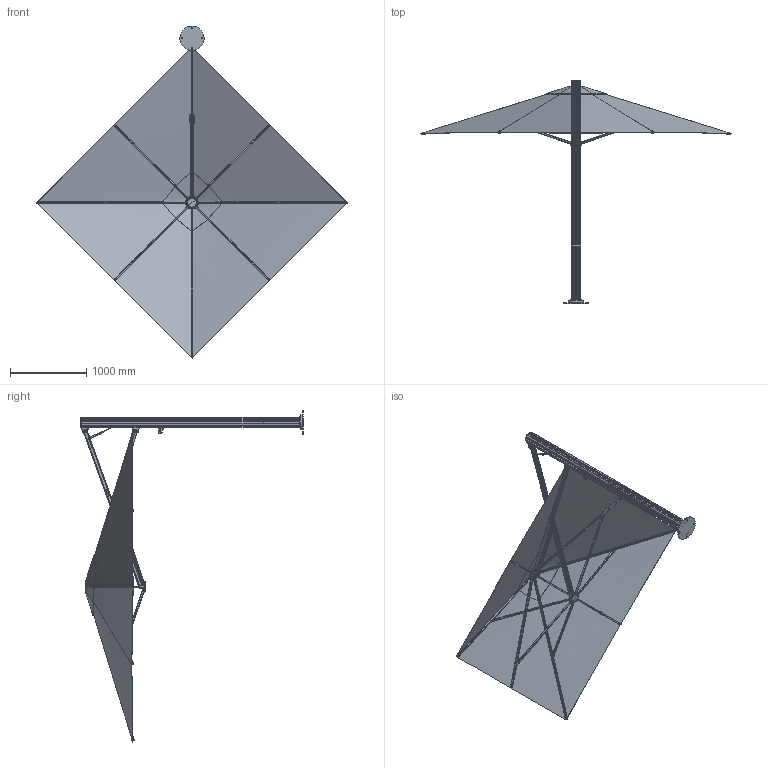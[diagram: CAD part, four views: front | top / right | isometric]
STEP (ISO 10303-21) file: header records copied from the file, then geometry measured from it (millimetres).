
FILE_DESCRIPTION (( 'STEP AP203' ), '1' );
FILE_NAME ('Unity 3M Square Uno.STEP', '2020-06-18T23:31:52', ( '' ), ( '' ), 'SwSTEP 2.0', 'SolidWorks 2017', '' );
FILE_SCHEMA (( 'CONFIG_CONTROL_DESIGN' ));
Length unit declared in the file: millimetre
Products named in the file (51): socket button head cap screw_am_B18.3.4M - 5 x 0.8 x 16 SBHCS --N; SMP_Um - 110192; SMP_UM - 110063; SMP_UM - 110102_Stretched; SMP_UM - 010263_3M SQR; SMP_UM - 110096_PD; SMP_UM - 110168; SMP_UM - 110066; SMP_UM - 110204; SMP_UM - 110186; SMP_UM - 110112_ALL HOLES; SMP_UM - 110069; SMP_UM - 110187; SMP_UM - 110075; SMP_UM - 110084; UM - 210036; SMP_UM - 210043 - Gastec Spring_Extended; SMP_UM - 110170; SMP_UM - 110205; SMP_UM - 110088; SMP_UM - 110093; SMP_UM - 210019; SMP_UM - 110080; SMP_UM - 110098; SMP_UM - 110064; SMP_UM - 010020_Canopy Only - Open; SMP_UM - 110089; SMP_UM - 110110; flat washer regular_am_B18.22M - Plain washer, 6 mm, regular; SMP_UM - 110171; socket button head cap screw_am_B18.3.4M - 5 x 0.8 x 20 SBHCS --N; SMP_UM - 110079; SMP_UM - 110189; Unity 3M Square Uno; SMP_UM - 110191; SMP_UM - 110169; SMP_UM - 110070; SMP_UM - 110187b; SMP_UM - 110065; SMP_UM - 110116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
Assembly tree (74 placements, depth 4):
  Unity 3M Square Uno
    SMP_UM - 110116
      SMP_UM - 110112_ALL HOLES
    SMP_UM - 110123
      SMP_UM - 110313_Default<As Machined>
    SMP_UM - 110222
    SMP_UM - 110126 (2)
    SMP_UM - 010020_Canopy Only - Open
      SMP_UM - 110169
        SMP_UM - 110186
        SMP_UM - 110080  x2
      SMP_UM - 110170
        SMP_UM - 110187b
        SMP_UM - 110187
        SMP_UM - 110084
        socket button head cap screw_am_B18.3.4M - 5 x 0.8 x 16 SBHCS --N
        UM - 210036
        SMP_UM - 110085  x2
      SMP_UM - 110064
        SMP_UM - 110092
      SMP_UM - 110063
        SMP_UM - 110092
        SMP_UM - 110093
        SMP_UM - 110094
        SMP_UM - 110110
      SMP_UM - 110171  x3
        SMP_UM - 110189
        SMP_UM - 110089
        SMP_UM - 110088
        flat washer regular_am_B18.22M - Plain washer, 6 mm, regular
        socket button head cap screw_am_B18.3.4M - 5 x 0.8 x 20 SBHCS --N
        SMP_UM - 110131
      SMP_UM - 110204  x3
        SMP_UM - 110190
        SMP_UM - 110089
      SMP_UM - 110066
        SMP_UM - 110098
        SMP_UM - 110075
        SMP_UM - 110096_PD
        SMP_UM - 110102_Stretched
      SMP_UM - 210043 - Gastec Spring_Extended
      SMP_UM - 110205  x4
        SMP_UM - 110191
        SMP_UM - 110089
        SMP_UM - 210019
        SMP_UM - 110088
        flat washer regular_am_B18.22M - Plain washer, 6 mm, regular
        socket button head cap screw_am_B18.3.4M - 5 x 0.8 x 20 SBHCS --N
        SMP_UM - 110131
      SMP_UM - 110172  x4
        SMP_Um - 110192
        SMP_UM - 110089
      SMP_UM - 110168
        SMP_UM - 110075
        SMP_UM - 110079
      SMP_UM - 010263_3M SQR
    SMP_UM - 110117
    SMP_UM - 110065  x2
      SMP_UM - 110070
      SMP_UM - 110069
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Bounding box: 4084.59 x 2932.5 x 4366.05 mm (x, y, z)
Volume: 57141411.4 mm3; surface area: 24734174.1 mm2
Topology: 100 solids, 102 shells, 1977 faces, 4795 edges, 3029 vertices
Faces by surface type: plane 637, cylinder 590, bspline 329, cone 306, torus 88, sphere 27
Entity records: 74433 total; most frequent: CARTESIAN_POINT 44896, ORIENTED_EDGE 5258, DIRECTION 4459, EDGE_CURVE 2629, AXIS2_PLACEMENT_3D 1761, VERTEX_POINT 1636, EDGE_LOOP 1123, FACE_OUTER_BOUND 1082
